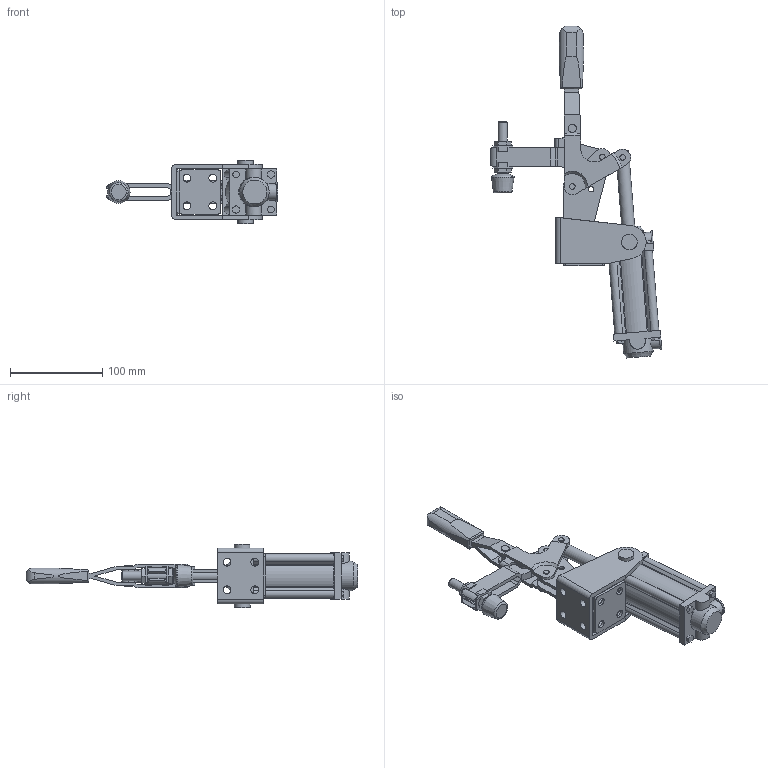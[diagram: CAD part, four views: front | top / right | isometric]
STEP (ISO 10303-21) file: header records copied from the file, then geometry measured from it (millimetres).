
FILE_DESCRIPTION( ( 'STEP AP203' ), '1' );
FILE_NAME( 'C:/Temp/Ganter_Step_05_03_2020/data/2_4/gn862_1/gn862_1_cpv3s/gn862_1_cpv3sm/Toggle clamp GN 862.1-300-CPV3S-M (closed).stp', '2020-03-13T05:50:07', ( 'License CC BY-ND 4.0' ), ( 'CADENAS' ), ' ', 'PARTsolutions', ' ' );
FILE_SCHEMA( ( 'CONFIG_CONTROL_DESIGN' ) );
Length unit declared in the file: millimetre
Products named in the file (10): Toggle clamp GN 862.1-300-CPV3S-M (closed); _Toggle clamp GN 862.1-300-CPV3S-M-1; _Toggle clamp GN 862.1-300-CPV3S-M (0)-5; _Toggle clamp GN 862.1-300-CPV3S-M (0)-4; _Toggle clamp GN 862.1-300-CPV3S-M (0)-2; _Toggle clamp GN 862.1-300-CPV3S-M-6; _Toggle clamp GN 862.1-300-CPV3S-M (0)-3; _Toggle clamp GN 862.1-300-CPV3S-M-7; _Toggle clamp GN 862.1-300-CPV3S-M-8; _Clamping bolt GN 862.1-300-CPV3S
Assembly tree (10 placements, depth 2):
  Toggle clamp GN 862.1-300-CPV3S-M (closed)
    _Toggle clamp GN 862.1-300-CPV3S-M-1
    _Toggle clamp GN 862.1-300-CPV3S-M (0)-5
    _Toggle clamp GN 862.1-300-CPV3S-M (0)-4
    _Toggle clamp GN 862.1-300-CPV3S-M (0)-2
    _Toggle clamp GN 862.1-300-CPV3S-M-6
    _Toggle clamp GN 862.1-300-CPV3S-M (0)-3
    _Toggle clamp GN 862.1-300-CPV3S-M-7
    _Toggle clamp GN 862.1-300-CPV3S-M-8  x2
    _Clamping bolt GN 862.1-300-CPV3S
Bounding box: 186 x 360 x 68.5 mm (x, y, z)
Volume: 317713 mm3; surface area: 147509.2 mm2
Topology: 9 solids, 9 shells, 459 faces, 1198 edges, 787 vertices
Faces by surface type: plane 278, cylinder 127, cone 50, torus 4
Full cylindrical faces by diameter (mm): 6 x17, 8.376 x2, 8.5 x8, 9 x5, 10 x1, 11 x2, 11.445 x2, 14 x1, 14.02 x1, 17 x4, 22 x2, 22.02 x1, 32 x2, 40 x1
Entity records: 13552 total; most frequent: CARTESIAN_POINT 3082, DIRECTION 2081, ORIENTED_EDGE 2030, EDGE_CURVE 1015, AXIS2_PLACEMENT_3D 722, VERTEX_POINT 704, LINE 637, VECTOR 637
